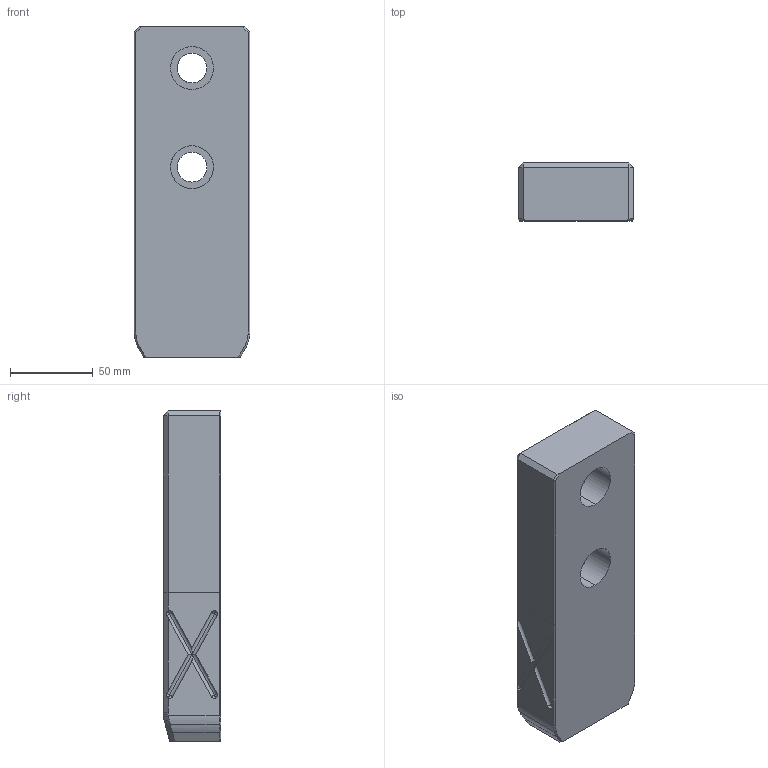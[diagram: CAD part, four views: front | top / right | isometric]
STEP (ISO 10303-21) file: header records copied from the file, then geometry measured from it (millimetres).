
FILE_DESCRIPTION(('CATIA V5 STEP Exchange'),'2;1');
FILE_NAME('D:\temp\color-modify-100929\GWB_6644-6654_R00\3d_gwb70-90-200_6646_r00.stp','2010-09-29T05:17:26+00:00',('none'),('none'),'CATIA Version 5 Release 18 SP 5 (IN-10)','CATIA V5 STEP AP214','none');
FILE_SCHEMA(('AUTOMOTIVE_DESIGN { 1 0 10303 214 1 1 1 1 }'));
Length unit declared in the file: millimetre
Products named in the file (1): GWB70-90-200
Bounding box: 70 x 35 x 200 mm (x, y, z)
Volume: 449736.7 mm3; surface area: 50809.4 mm2
Topology: 1 solids, 1 shells, 122 faces, 323 edges, 183 vertices
Faces by surface type: cylinder 50, plane 36, revolution 24, cone 8, bspline 4
Entity records: 4464 total; most frequent: CARTESIAN_POINT 1836, ORIENTED_EDGE 598, DIRECTION 393, EDGE_CURVE 299, VERTEX_POINT 183, B_SPLINE_CURVE_WITH_KNOTS 142, VECTOR 140, LINE 140
